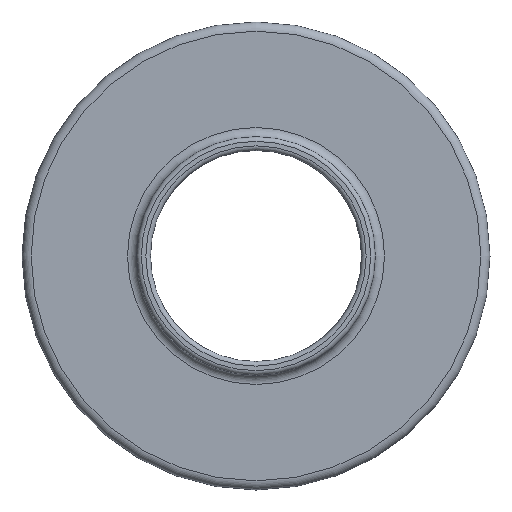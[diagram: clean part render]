
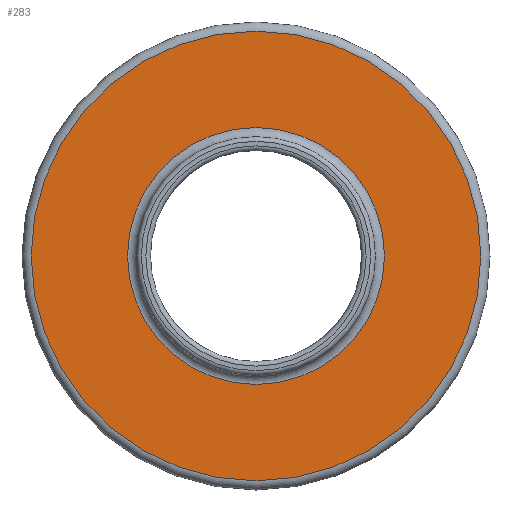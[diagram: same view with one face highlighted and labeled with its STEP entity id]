
A CAD part, front view. The second image highlights one B-rep face of the part: STEP entity #283.
In plain terms, the highlighted planar face has unit normal (0, -1, 0).
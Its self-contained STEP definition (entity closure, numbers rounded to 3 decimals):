
#19=FACE_BOUND('',#73,.T.);
#23=PLANE('',#338);
#52=FACE_OUTER_BOUND('',#72,.T.);
#72=EDGE_LOOP('',(#222));
#73=EDGE_LOOP('',(#223));
#100=CIRCLE('',#337,14.);
#101=CIRCLE('',#339,24.5);
#130=VERTEX_POINT('',#516);
#131=VERTEX_POINT('',#520);
#163=EDGE_CURVE('',#130,#130,#100,.T.);
#164=EDGE_CURVE('',#131,#131,#101,.T.);
#222=ORIENTED_EDGE('',*,*,#164,.F.);
#223=ORIENTED_EDGE('',*,*,#163,.F.);
#283=ADVANCED_FACE('',(#52,#19),#23,.T.);
#337=AXIS2_PLACEMENT_3D('',#518,#417,#418);
#338=AXIS2_PLACEMENT_3D('',#519,#419,#420);
#339=AXIS2_PLACEMENT_3D('',#521,#421,#422);
#417=DIRECTION('center_axis',(0.,-1.,0.));
#418=DIRECTION('ref_axis',(1.,0.,0.));
#419=DIRECTION('center_axis',(0.,-1.,0.));
#420=DIRECTION('ref_axis',(0.,0.,-1.));
#421=DIRECTION('center_axis',(0.,1.,0.));
#422=DIRECTION('ref_axis',(1.,0.,0.));
#516=CARTESIAN_POINT('',(0.,-10.,-14.));
#518=CARTESIAN_POINT('Origin',(0.,-10.,0.));
#519=CARTESIAN_POINT('Origin',(-25.5,-10.,0.));
#520=CARTESIAN_POINT('',(0.,-10.,-24.5));
#521=CARTESIAN_POINT('Origin',(0.,-10.,0.));
